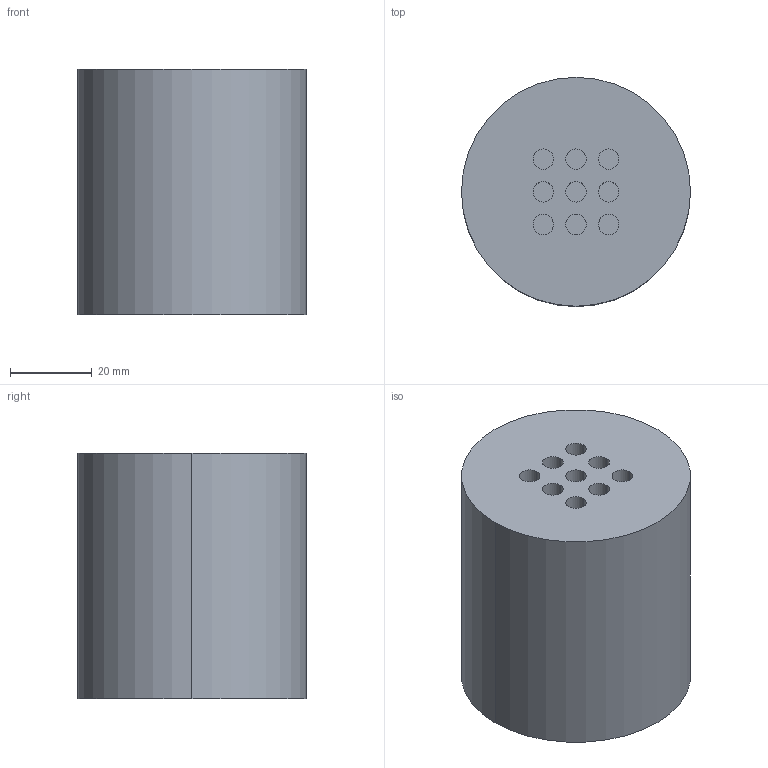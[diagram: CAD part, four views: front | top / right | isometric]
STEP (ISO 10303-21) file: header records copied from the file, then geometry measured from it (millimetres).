
FILE_DESCRIPTION (( 'STEP AP214' ), '1' );
FILE_NAME ('Gewuerzstreuer_68328.STEP', '2010-10-27T05:38:05', ( 'grass' ), ( '' ), 'SwSTEP 2.0', 'SolidWorks 2010', '' );
FILE_SCHEMA (( 'AUTOMOTIVE_DESIGN' ));
Length unit declared in the file: millimetre
Products named in the file (1): Gewuerzstreuer_68328
Bounding box: 56 x 56 x 60 mm (x, y, z)
Volume: 146013.4 mm3; surface area: 16895.5 mm2
Topology: 1 solids, 1 shells, 31 faces, 60 edges, 40 vertices
Faces by surface type: cylinder 20, plane 11
Entity records: 1189 total; most frequent: DIRECTION 164, CARTESIAN_POINT 132, ORIENTED_EDGE 120, AXIS2_PLACEMENT_3D 72, EDGE_CURVE 60, VERTEX_POINT 40, EDGE_LOOP 40, CIRCLE 40
